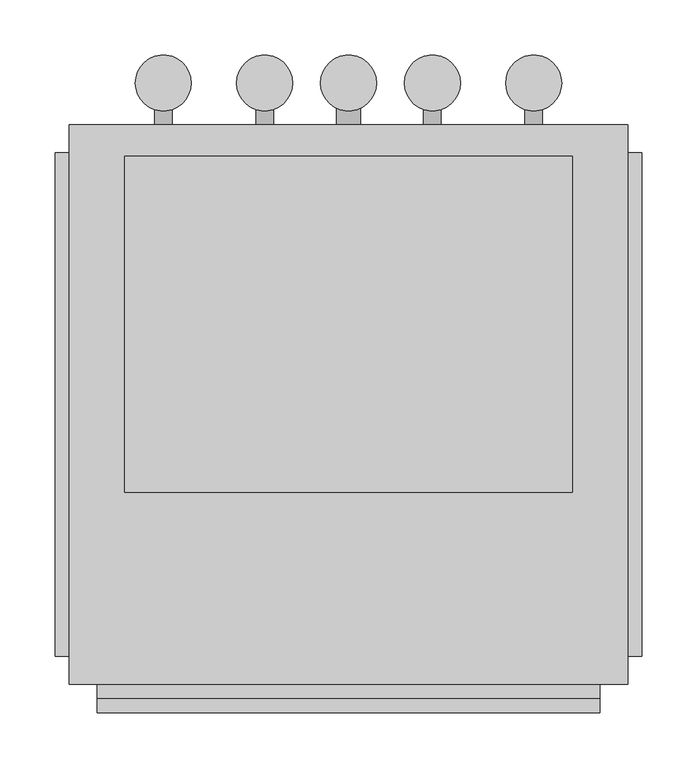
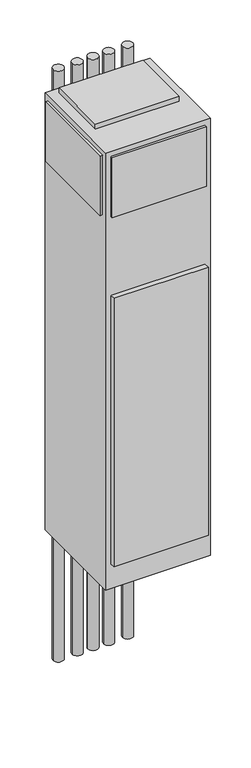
"""IFC4 building model written with IfcOpenShell, lengths in millimetres: proxy geometry, Concealed_Universal_Modular_Fan_Coil_Unit_-_42SUB_-_CARRIER_-_4-Pipe_-_WithRisers_2022 : Size 06 - 277v/60Hz/1Ph - 4/1 Coil."""

from ifc_helpers import new_model, si_unit, point, frame, frame_2d, origin, origin_with_axes, place, context, project, spatial, polyline, circle_curve, trimmed, segment, composite_curve, outline, extrude, source, transform, mapped, element, save


def mechanical_equipment_3d1a22ab(model_context):
    return source(origin(), model_context, "Body", "SweptSolid", [
        extrude(outline(composite_curve([segment(trimmed(circle_curve(frame_2d((238.125, 282.575)), 25.4), [point((212.725, 282.575))], [point((263.525, 282.575))], False, "CARTESIAN"), True, "CONTINUOUS"), segment(trimmed(circle_curve(frame_2d((238.125, 282.575)), 25.4), [point((263.525, 282.575))], [point((212.725, 282.575))], False, "CARTESIAN"), True, "CONTINUOUS")], self_intersect=False)), frame((0.0, 0.0, -711.2), z_axis=(0.0, 0.0, 1.0), x_axis=(1.0, 0.0, 0.0)), (0.0, 0.0, 1.0), 3022.6),
        extrude(outline(composite_curve([segment(trimmed(circle_curve(frame_2d((330.2, 282.575)), 25.4), [point((304.8, 282.575))], [point((355.6, 282.575))], False, "CARTESIAN"), True, "CONTINUOUS"), segment(trimmed(circle_curve(frame_2d((330.2, 282.575)), 25.4), [point((355.6, 282.575))], [point((304.8, 282.575))], False, "CARTESIAN"), True, "CONTINUOUS")], self_intersect=False)), frame((0.0, 0.0, -711.2), z_axis=(0.0, 0.0, 1.0), x_axis=(1.0, 0.0, 0.0)), (0.0, 0.0, 1.0), 3022.6),
        extrude(outline(composite_curve([segment(trimmed(circle_curve(frame_2d((406.4, 282.575)), 25.4), [point((381.0, 282.575))], [point((431.8, 282.575))], False, "CARTESIAN"), True, "CONTINUOUS"), segment(trimmed(circle_curve(frame_2d((406.4, 282.575)), 25.4), [point((431.8, 282.575))], [point((381.0, 282.575))], False, "CARTESIAN"), True, "CONTINUOUS")], self_intersect=False)), frame((0.0, 0.0, -711.2), z_axis=(0.0, 0.0, 1.0), x_axis=(1.0, 0.0, 0.0)), (0.0, 0.0, 1.0), 3022.6),
        extrude(outline(composite_curve([segment(trimmed(circle_curve(frame_2d((482.6, 282.575)), 25.4), [point((457.2, 282.575))], [point((508.0, 282.575))], False, "CARTESIAN"), True, "CONTINUOUS"), segment(trimmed(circle_curve(frame_2d((482.6, 282.575)), 25.4), [point((508.0, 282.575))], [point((457.2, 282.575))], False, "CARTESIAN"), True, "CONTINUOUS")], self_intersect=False)), frame((0.0, 0.0, -711.2), z_axis=(0.0, 0.0, 1.0), x_axis=(1.0, 0.0, 0.0)), (0.0, 0.0, 1.0), 3022.6),
        extrude(outline(composite_curve([segment(trimmed(circle_curve(frame_2d((574.675, 282.575)), 25.4), [point((549.275, 282.575))], [point((600.075, 282.575))], False, "CARTESIAN"), True, "CONTINUOUS"), segment(trimmed(circle_curve(frame_2d((574.675, 282.575)), 25.4), [point((600.075, 282.575))], [point((549.275, 282.575))], False, "CARTESIAN"), True, "CONTINUOUS")], self_intersect=False)), frame((0.0, 0.0, -711.2), z_axis=(0.0, 0.0, 1.0), x_axis=(1.0, 0.0, 0.0)), (0.0, 0.0, 1.0), 3022.6),
        extrude(outline(composite_curve([segment(trimmed(circle_curve(frame_2d((990.6, 574.675)), 7.9375), [point((990.6, 566.7375))], [point((990.6, 582.6125))], False, "CARTESIAN"), True, "CONTINUOUS"), segment(trimmed(circle_curve(frame_2d((990.6, 574.675)), 7.9375), [point((990.6, 582.6125))], [point((990.6, 566.7375))], False, "CARTESIAN"), True, "CONTINUOUS")], self_intersect=False)), frame((0.0, 244.475, 0.0), z_axis=(0.0, 1.0, 0.0), x_axis=(0.0, 0.0, 1.0)), (0.0, 0.0, 1.0), 50.8),
        extrude(outline(composite_curve([segment(trimmed(circle_curve(frame_2d((990.6, 482.6)), 7.9375), [point((990.6, 474.6625))], [point((990.6, 490.5375))], False, "CARTESIAN"), True, "CONTINUOUS"), segment(trimmed(circle_curve(frame_2d((990.6, 482.6)), 7.9375), [point((990.6, 490.5375))], [point((990.6, 474.6625))], False, "CARTESIAN"), True, "CONTINUOUS")], self_intersect=False)), frame((0.0, 244.475, 0.0), z_axis=(0.0, 1.0, 0.0), x_axis=(0.0, 0.0, 1.0)), (0.0, 0.0, 1.0), 50.8),
        extrude(outline(composite_curve([segment(trimmed(circle_curve(frame_2d((990.6, 330.2)), 7.9375), [point((990.6, 322.2625))], [point((990.6, 338.1375))], False, "CARTESIAN"), True, "CONTINUOUS"), segment(trimmed(circle_curve(frame_2d((990.6, 330.2)), 7.9375), [point((990.6, 338.1375))], [point((990.6, 322.2625))], False, "CARTESIAN"), True, "CONTINUOUS")], self_intersect=False)), frame((0.0, 244.475, 0.0), z_axis=(0.0, 1.0, 0.0), x_axis=(0.0, 0.0, 1.0)), (0.0, 0.0, 1.0), 50.8),
        extrude(outline(composite_curve([segment(trimmed(circle_curve(frame_2d((990.6, 238.125)), 7.9375), [point((990.6, 230.1875))], [point((990.6, 246.0625))], False, "CARTESIAN"), True, "CONTINUOUS"), segment(trimmed(circle_curve(frame_2d((990.6, 238.125)), 7.9375), [point((990.6, 246.0625))], [point((990.6, 230.1875))], False, "CARTESIAN"), True, "CONTINUOUS")], self_intersect=False)), frame((0.0, 244.475, 0.0), z_axis=(0.0, 1.0, 0.0), x_axis=(0.0, 0.0, 1.0)), (0.0, 0.0, 1.0), 50.8),
        extrude(outline(composite_curve([segment(trimmed(circle_curve(frame_2d((76.2, 406.4)), 11.1125), [point((76.2, 395.2875))], [point((76.2, 417.5125))], False, "CARTESIAN"), True, "CONTINUOUS"), segment(trimmed(circle_curve(frame_2d((76.2, 406.4)), 11.1125), [point((76.2, 417.5125))], [point((76.2, 395.2875))], False, "CARTESIAN"), True, "CONTINUOUS")], self_intersect=False)), frame((0.0, 244.475, 0.0), z_axis=(0.0, 1.0, 0.0), x_axis=(0.0, 0.0, 1.0)), (0.0, 0.0, 1.0), 50.8),
        extrude(outline(polyline([(609.6, 215.9), (609.6, -88.9), (203.2, -88.9), (203.2, 215.9), (609.6, 215.9)])), frame((0.0, 0.0, 2235.2), z_axis=(0.0, 0.0, 1.0), x_axis=(1.0, 0.0, 0.0)), (0.0, 0.0, 1.0), 25.4),
        extrude(outline(polyline([(139.7, -238.125), (139.7, 219.075), (152.4, 219.075), (152.4, -238.125), (139.7, -238.125)])), frame((0.0, 0.0, 1905.0), z_axis=(0.0, 0.0, 1.0), x_axis=(1.0, 0.0, 0.0)), (0.0, 0.0, 1.0), 304.8),
        extrude(outline(polyline([(673.1, 219.075), (673.1, -238.125), (660.4, -238.125), (660.4, 219.075), (673.1, 219.075)])), frame((0.0, 0.0, 1905.0), z_axis=(0.0, 0.0, 1.0), x_axis=(1.0, 0.0, 0.0)), (0.0, 0.0, 1.0), 304.8),
        extrude(outline(polyline([(635.0, -276.225), (177.8, -276.225), (177.8, -263.525), (635.0, -263.525), (635.0, -276.225)])), frame((0.0, 0.0, 1905.0), z_axis=(0.0, 0.0, 1.0), x_axis=(1.0, 0.0, 0.0)), (0.0, 0.0, 1.0), 304.8),
        extrude(outline(polyline([(635.0, -288.925), (177.8, -288.925), (177.8, -263.525), (635.0, -263.525), (635.0, -288.925)])), frame((0.0, 0.0, 127.0), z_axis=(0.0, 0.0, 1.0), x_axis=(1.0, 0.0, 0.0)), (0.0, 0.0, 1.0), 1371.6),
        extrude(outline(polyline([(660.4, 244.475), (660.4, -263.525), (152.4, -263.525), (152.4, 244.475), (660.4, 244.475)])), origin_with_axes(), (0.0, 0.0, 1.0), 2235.2),
    ])


if __name__ == "__main__":
    model = new_model("IFC4")
    model_context = context("Model", 3, world=origin())
    ifc_project = project(units=[si_unit("LENGTHUNIT", "METRE", prefix="MILLI")], contexts=[model_context])
    site = spatial("IfcSite", under=ifc_project)
    building = spatial("IfcBuilding", under=site)
    placement = place(None, origin())
    mechanical_equipment_shape = mechanical_equipment_3d1a22ab(model_context)
    element("IfcBuildingElementProxy", 1, Name="Concealed_Universal_Modular_Fan_Coil_Unit_-_42SUB_-_CARRIER_-_4-Pipe_-_WithRisers_2022 : Size 06 - 277v/60Hz/1Ph - 4/1 Coil", ObjectType="Concealed_Universal_Modular_Fan_Coil_Unit_-_42SUB_-_CARRIER_-_4-Pipe_-_WithRisers_2022 : Size 06 - 277v/60Hz/1Ph - 4/1 Coil", at=placement, inside=building, context=model_context, shape_type="MappedRepresentation", body=[
        mapped(mechanical_equipment_shape, transform((0.0, 0.0, 0.0), x_axis=(1.0, 0.0, 0.0), y_axis=(0.0, 1.0, 0.0), z_axis=(0.0, 0.0, 1.0))),
    ])
    save(model, "model.ifc")
